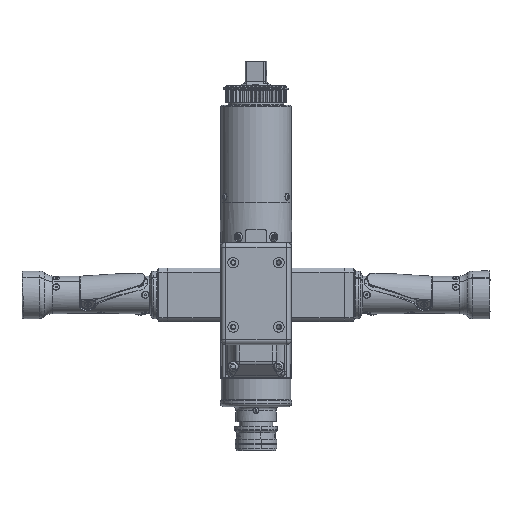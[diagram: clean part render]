
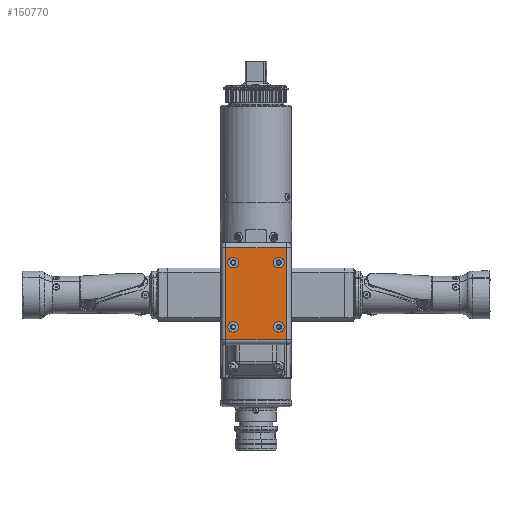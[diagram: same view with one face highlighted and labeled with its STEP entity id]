
A CAD part, front view. The second image highlights one B-rep face of the part: STEP entity #150770.
In plain terms, the highlighted planar face has unit normal (0, -1, 0).
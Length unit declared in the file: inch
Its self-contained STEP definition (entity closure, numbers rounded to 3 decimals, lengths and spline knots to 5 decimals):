
#2898 = VECTOR ( 'NONE', #141495, 39.37008 ) ;
#3485 = EDGE_CURVE ( 'NONE', #84936, #20444, #71212, .T. ) ;
#5223 = DIRECTION ( 'NONE',  ( 0., 0., 1. ) ) ;
#5410 = DIRECTION ( 'NONE',  ( 0., -1., 0. ) ) ;
#6469 = VECTOR ( 'NONE', #110210, 39.37008 ) ;
#6572 = CIRCLE ( 'NONE', #134120, 0.198 ) ;
#6666 = DIRECTION ( 'NONE',  ( 0., -1., 0. ) ) ;
#7374 = ORIENTED_EDGE ( 'NONE', *, *, #93137, .F. ) ;
#7506 = EDGE_CURVE ( 'NONE', #75289, #75946, #128419, .T. ) ;
#11471 = AXIS2_PLACEMENT_3D ( 'NONE', #79484, #6666, #91757 ) ;
#14726 = CARTESIAN_POINT ( 'NONE',  ( 0.854, -3.5125, -0.75 ) ) ;
#16942 = ORIENTED_EDGE ( 'NONE', *, *, #70216, .T. ) ;
#17163 = CARTESIAN_POINT ( 'NONE',  ( 1.3125, -3.5125, -3.6245 ) ) ;
#18961 = CARTESIAN_POINT ( 'NONE',  ( 1.125, -3.5125, 0.0005 ) ) ;
#19839 = DIRECTION ( 'NONE',  ( 0., -1., 0. ) ) ;
#20387 = VECTOR ( 'NONE', #136942, 39.37008 ) ;
#20444 = VERTEX_POINT ( 'NONE', #58558 ) ;
#21807 = CIRCLE ( 'NONE', #121671, 0.198 ) ;
#22561 = FACE_BOUND ( 'NONE', #110313, .T. ) ;
#25220 = VERTEX_POINT ( 'NONE', #28074 ) ;
#26180 = CARTESIAN_POINT ( 'NONE',  ( -0.854, -3.5125, -0.75 ) ) ;
#26415 = FACE_BOUND ( 'NONE', #107473, .T. ) ;
#27069 = DIRECTION ( 'NONE',  ( 0., 0., 1. ) ) ;
#28074 = CARTESIAN_POINT ( 'NONE',  ( 0.854, -3.5125, -2.952 ) ) ;
#29194 = VERTEX_POINT ( 'NONE', #125129 ) ;
#33097 = EDGE_CURVE ( 'NONE', #39200, #29194, #142223, .T. ) ;
#35832 = DIRECTION ( 'NONE',  ( 0., -1., 0. ) ) ;
#38340 = DIRECTION ( 'NONE',  ( 0., 0., 1. ) ) ;
#39200 = VERTEX_POINT ( 'NONE', #98491 ) ;
#40882 = AXIS2_PLACEMENT_3D ( 'NONE', #46628, #131743, #58926 ) ;
#42849 = ORIENTED_EDGE ( 'NONE', *, *, #117886, .F. ) ;
#46071 = ORIENTED_EDGE ( 'NONE', *, *, #104373, .F. ) ;
#46628 = CARTESIAN_POINT ( 'NONE',  ( -0.854, -3.5125, -3.15 ) ) ;
#46660 = CARTESIAN_POINT ( 'NONE',  ( 0.854, -3.5125, -0.75 ) ) ;
#52199 = CARTESIAN_POINT ( 'NONE',  ( 0.854, -3.5125, -0.552 ) ) ;
#52628 = ORIENTED_EDGE ( 'NONE', *, *, #54060, .F. ) ;
#53393 = EDGE_LOOP ( 'NONE', ( #118318, #42849 ) ) ;
#54060 = EDGE_CURVE ( 'NONE', #142592, #120254, #143925, .T. ) ;
#54268 = CIRCLE ( 'NONE', #114511, 0.198 ) ;
#55037 = ORIENTED_EDGE ( 'NONE', *, *, #7506, .T. ) ;
#55900 = ORIENTED_EDGE ( 'NONE', *, *, #89471, .T. ) ;
#58225 = CARTESIAN_POINT ( 'NONE',  ( -0.854, -3.5125, -2.952 ) ) ;
#58558 = CARTESIAN_POINT ( 'NONE',  ( -1.125, -3.5125, -0.187 ) ) ;
#58926 = DIRECTION ( 'NONE',  ( 0., 0., 1. ) ) ;
#58957 = DIRECTION ( 'NONE',  ( 0., 0., 1. ) ) ;
#62335 = VERTEX_POINT ( 'NONE', #52199 ) ;
#62722 = AXIS2_PLACEMENT_3D ( 'NONE', #78230, #5410, #90520 ) ;
#63930 = LINE ( 'NONE', #18961, #96283 ) ;
#64688 = EDGE_CURVE ( 'NONE', #62335, #113489, #54268, .T. ) ;
#67046 = ORIENTED_EDGE ( 'NONE', *, *, #3485, .T. ) ;
#70216 = EDGE_CURVE ( 'NONE', #20444, #75289, #81241, .T. ) ;
#71212 = LINE ( 'NONE', #138321, #6469 ) ;
#73266 = ORIENTED_EDGE ( 'NONE', *, *, #33097, .F. ) ;
#74328 = CARTESIAN_POINT ( 'NONE',  ( 1.125, -3.5125, -3.6245 ) ) ;
#75289 = VERTEX_POINT ( 'NONE', #145041 ) ;
#75946 = VERTEX_POINT ( 'NONE', #74328 ) ;
#76259 = ORIENTED_EDGE ( 'NONE', *, *, #157844, .F. ) ;
#78039 = DIRECTION ( 'NONE',  ( 0., -1., 0. ) ) ;
#78230 = CARTESIAN_POINT ( 'NONE',  ( 1.3125, -3.5125, 0.0005 ) ) ;
#79484 = CARTESIAN_POINT ( 'NONE',  ( 0.854, -3.5125, -3.15 ) ) ;
#81241 = LINE ( 'NONE', #112478, #20387 ) ;
#84936 = VERTEX_POINT ( 'NONE', #125394 ) ;
#89457 = PLANE ( 'NONE',  #62722 ) ;
#89471 = EDGE_CURVE ( 'NONE', #75946, #84936, #63930, .T. ) ;
#90520 = DIRECTION ( 'NONE',  ( 0., 0., 1. ) ) ;
#91757 = DIRECTION ( 'NONE',  ( 0., 0., 1. ) ) ;
#92671 = CARTESIAN_POINT ( 'NONE',  ( -0.854, -3.5125, -3.15 ) ) ;
#93137 = EDGE_CURVE ( 'NONE', #25220, #128101, #142329, .T. ) ;
#95044 = AXIS2_PLACEMENT_3D ( 'NONE', #14726, #99819, #27069 ) ;
#96283 = VECTOR ( 'NONE', #126376, 39.37008 ) ;
#98491 = CARTESIAN_POINT ( 'NONE',  ( -0.854, -3.5125, -0.552 ) ) ;
#98628 = CARTESIAN_POINT ( 'NONE',  ( -0.854, -3.5125, -3.348 ) ) ;
#99819 = DIRECTION ( 'NONE',  ( 0., -1., 0. ) ) ;
#101222 = EDGE_LOOP ( 'NONE', ( #73266, #76259 ) ) ;
#104137 = ORIENTED_EDGE ( 'NONE', *, *, #112451, .F. ) ;
#104373 = EDGE_CURVE ( 'NONE', #120254, #142592, #133884, .T. ) ;
#104867 = DIRECTION ( 'NONE',  ( 0., 0., 1. ) ) ;
#107473 = EDGE_LOOP ( 'NONE', ( #46071, #52628 ) ) ;
#108596 = CARTESIAN_POINT ( 'NONE',  ( 0.854, -3.5125, -3.15 ) ) ;
#109776 = CARTESIAN_POINT ( 'NONE',  ( 0.854, -3.5125, -0.948 ) ) ;
#110210 = DIRECTION ( 'NONE',  ( -1., 0., 0. ) ) ;
#110313 = EDGE_LOOP ( 'NONE', ( #7374, #104137 ) ) ;
#111138 = DIRECTION ( 'NONE',  ( 0., -1., 0. ) ) ;
#112451 = EDGE_CURVE ( 'NONE', #128101, #25220, #6572, .T. ) ;
#112478 = CARTESIAN_POINT ( 'NONE',  ( -1.125, -3.5125, 0.0005 ) ) ;
#113489 = VERTEX_POINT ( 'NONE', #109776 ) ;
#113662 = EDGE_LOOP ( 'NONE', ( #55900, #67046, #16942, #55037 ) ) ;
#114511 = AXIS2_PLACEMENT_3D ( 'NONE', #46660, #131773, #58957 ) ;
#115733 = FACE_OUTER_BOUND ( 'NONE', #113662, .T. ) ;
#117886 = EDGE_CURVE ( 'NONE', #113489, #62335, #156494, .T. ) ;
#118318 = ORIENTED_EDGE ( 'NONE', *, *, #64688, .F. ) ;
#118857 = AXIS2_PLACEMENT_3D ( 'NONE', #92671, #19839, #104867 ) ;
#119573 = FACE_BOUND ( 'NONE', #53393, .T. ) ;
#120254 = VERTEX_POINT ( 'NONE', #58225 ) ;
#120830 = DIRECTION ( 'NONE',  ( 0., 0., 1. ) ) ;
#121671 = AXIS2_PLACEMENT_3D ( 'NONE', #150968, #78039, #5223 ) ;
#123717 = AXIS2_PLACEMENT_3D ( 'NONE', #26180, #111138, #38340 ) ;
#125129 = CARTESIAN_POINT ( 'NONE',  ( -0.854, -3.5125, -0.948 ) ) ;
#125394 = CARTESIAN_POINT ( 'NONE',  ( 1.125, -3.5125, -0.187 ) ) ;
#126376 = DIRECTION ( 'NONE',  ( 0., 0., 1. ) ) ;
#128101 = VERTEX_POINT ( 'NONE', #149283 ) ;
#128419 = LINE ( 'NONE', #17163, #2898 ) ;
#131743 = DIRECTION ( 'NONE',  ( 0., -1., 0. ) ) ;
#131773 = DIRECTION ( 'NONE',  ( 0., -1., 0. ) ) ;
#133884 = CIRCLE ( 'NONE', #118857, 0.198 ) ;
#134120 = AXIS2_PLACEMENT_3D ( 'NONE', #108596, #35832, #120830 ) ;
#136942 = DIRECTION ( 'NONE',  ( 0., 0., -1. ) ) ;
#138321 = CARTESIAN_POINT ( 'NONE',  ( -1.125, -3.5125, -0.187 ) ) ;
#141495 = DIRECTION ( 'NONE',  ( 1., 0., 0. ) ) ;
#142223 = CIRCLE ( 'NONE', #123717, 0.198 ) ;
#142329 = CIRCLE ( 'NONE', #11471, 0.198 ) ;
#142592 = VERTEX_POINT ( 'NONE', #98628 ) ;
#143925 = CIRCLE ( 'NONE', #40882, 0.198 ) ;
#145041 = CARTESIAN_POINT ( 'NONE',  ( -1.125, -3.5125, -3.6245 ) ) ;
#148152 = FACE_BOUND ( 'NONE', #101222, .T. ) ;
#149283 = CARTESIAN_POINT ( 'NONE',  ( 0.854, -3.5125, -3.348 ) ) ;
#150770 = ADVANCED_FACE ( 'NONE', ( #26415, #22561, #119573, #148152, #115733 ), #89457, .T. ) ;
#150968 = CARTESIAN_POINT ( 'NONE',  ( -0.854, -3.5125, -0.75 ) ) ;
#156494 = CIRCLE ( 'NONE', #95044, 0.198 ) ;
#157844 = EDGE_CURVE ( 'NONE', #29194, #39200, #21807, .T. ) ;
